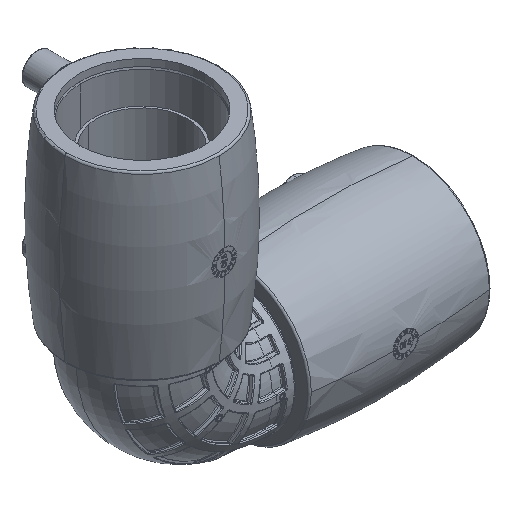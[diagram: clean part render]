
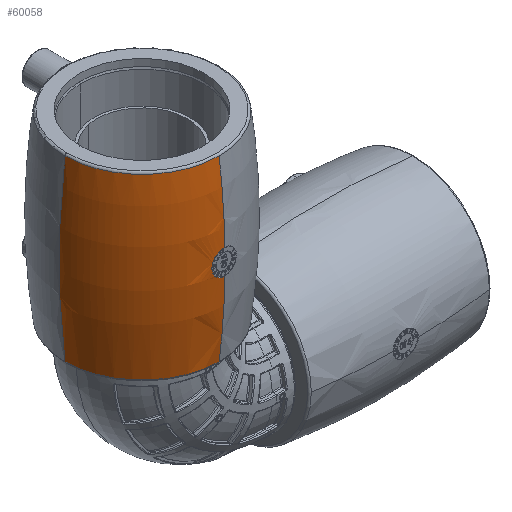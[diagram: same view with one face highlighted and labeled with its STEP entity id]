
A CAD part, isometric view. The second image highlights one B-rep face of the part: STEP entity #60058.
In plain terms, the highlighted toroidal (fillet/blend) face has major radius 307.5 mm and minor radius 350 mm.
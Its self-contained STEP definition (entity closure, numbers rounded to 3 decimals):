
#59374 = VERTEX_POINT ( 'NONE', #119438 ) ;
#59394 = VERTEX_POINT ( 'NONE', #119437 ) ;
#59498 = VERTEX_POINT ( 'NONE', #119612 ) ;
#59526 = EDGE_CURVE ( 'NONE', #59374, #59394, #119640, .T. ) ;
#59547 = EDGE_CURVE ( 'NONE', #59606, #59675, #119685, .T. ) ;
#59582 = VERTEX_POINT ( 'NONE', #119708 ) ;
#59606 = VERTEX_POINT ( 'NONE', #119737 ) ;
#59626 = EDGE_CURVE ( 'NONE', #59582, #59498, #119754, .T. ) ;
#59675 = VERTEX_POINT ( 'NONE', #119806 ) ;
#59895 = ORIENTED_EDGE ( 'NONE', *, *, #60059, .T. ) ;
#59942 = VERTEX_POINT ( 'NONE', #120184 ) ;
#59949 = ORIENTED_EDGE ( 'NONE', *, *, #60069, .F. ) ;
#59970 = ORIENTED_EDGE ( 'NONE', *, *, #59526, .F. ) ;
#59971 = EDGE_CURVE ( 'NONE', #59394, #60061, #120269, .T. ) ;
#59973 = EDGE_CURVE ( 'NONE', #59976, #59374, #120263, .T. ) ;
#59976 = VERTEX_POINT ( 'NONE', #120262 ) ;
#59978 = EDGE_CURVE ( 'NONE', #59606, #59942, #120264, .T. ) ;
#59982 = ORIENTED_EDGE ( 'NONE', *, *, #59973, .F. ) ;
#59988 = ORIENTED_EDGE ( 'NONE', *, *, #59547, .T. ) ;
#59994 = EDGE_LOOP ( 'NONE', ( #59988, #59895, #60062, #60065, #60063, #59970, #59982, #59949, #60056 ) ) ;
#60056 = ORIENTED_EDGE ( 'NONE', *, *, #59978, .F. ) ;
#60058 = ADVANCED_FACE ( 'NONE', ( #120394 ), #120392, .T. ) ;
#60059 = EDGE_CURVE ( 'NONE', #59675, #59582, #120438, .T. ) ;
#60060 = EDGE_CURVE ( 'NONE', #60061, #59498, #120400, .T. ) ;
#60061 = VERTEX_POINT ( 'NONE', #120429 ) ;
#60062 = ORIENTED_EDGE ( 'NONE', *, *, #59626, .T. ) ;
#60063 = ORIENTED_EDGE ( 'NONE', *, *, #59971, .F. ) ;
#60065 = ORIENTED_EDGE ( 'NONE', *, *, #60060, .F. ) ;
#60069 = EDGE_CURVE ( 'NONE', #59942, #59976, #120428, .T. ) ;
#119437 = CARTESIAN_POINT ( 'NONE',  ( -39.383, -43.52, 60.813 ) ) ;
#119438 = CARTESIAN_POINT ( 'NONE',  ( -39.501, -43.504, 62.023 ) ) ;
#119505 = CARTESIAN_POINT ( 'NONE',  ( -38.432, -43.632, 65.538 ) ) ;
#119516 = CARTESIAN_POINT ( 'NONE',  ( -38.219, -43.655, 65.833 ) ) ;
#119612 = CARTESIAN_POINT ( 'NONE',  ( -33.251, -40.979, 16.393 ) ) ;
#119635 = CARTESIAN_POINT ( 'NONE',  ( -39.383, -43.52, 60.813 ) ) ;
#119636 = CARTESIAN_POINT ( 'NONE',  ( -39.462, -43.509, 61.216 ) ) ;
#119637 = CARTESIAN_POINT ( 'NONE',  ( -39.501, -43.504, 61.62 ) ) ;
#119638 = CARTESIAN_POINT ( 'NONE',  ( -39.501, -43.504, 62.023 ) ) ;
#119640 = B_SPLINE_CURVE_WITH_KNOTS ( 'NONE', 3,
 ( #119638, #119637, #119636, #119635 ),
 .UNSPECIFIED., .F., .F.,
 ( 4, 4 ),
 ( 0.001, 0.002 ),
 .UNSPECIFIED. ) ;
#119673 = DIRECTION ( 'NONE',  ( -1., 0., 0. ) ) ;
#119674 = DIRECTION ( 'NONE',  ( 0., 0., -1. ) ) ;
#119675 = CARTESIAN_POINT ( 'NONE',  ( -33.251, -1.466, 107.654 ) ) ;
#119676 = AXIS2_PLACEMENT_3D ( 'NONE', #119675, #119674, #119673 ) ;
#119685 = CIRCLE ( 'NONE', #119676, 39.513 ) ;
#119708 = CARTESIAN_POINT ( 'NONE',  ( -72.764, -1.466, 16.393 ) ) ;
#119737 = CARTESIAN_POINT ( 'NONE',  ( -33.251, -40.979, 107.654 ) ) ;
#119751 = DIRECTION ( 'NONE',  ( 1., 0., 0. ) ) ;
#119752 = DIRECTION ( 'NONE',  ( 0., 0., 1. ) ) ;
#119753 = CARTESIAN_POINT ( 'NONE',  ( -33.251, -1.466, 16.393 ) ) ;
#119754 = CIRCLE ( 'NONE', #119778, 39.513 ) ;
#119778 = AXIS2_PLACEMENT_3D ( 'NONE', #119753, #119752, #119751 ) ;
#119806 = CARTESIAN_POINT ( 'NONE',  ( -72.764, -1.466, 107.654 ) ) ;
#120178 = CARTESIAN_POINT ( 'NONE',  ( -39.313, -43.529, 63.585 ) ) ;
#120180 = CARTESIAN_POINT ( 'NONE',  ( -38.955, -43.573, 64.604 ) ) ;
#120184 = CARTESIAN_POINT ( 'NONE',  ( -33.251, -43.911, 68.273 ) ) ;
#120188 = CARTESIAN_POINT ( 'NONE',  ( -38.798, -43.591, 64.925 ) ) ;
#120190 = CARTESIAN_POINT ( 'NONE',  ( -39.212, -43.541, 63.934 ) ) ;
#120194 = CARTESIAN_POINT ( 'NONE',  ( -39.383, -43.52, 63.234 ) ) ;
#120257 = AXIS2_PLACEMENT_3D ( 'NONE', #120271, #120303, #120302 ) ;
#120259 = CARTESIAN_POINT ( 'NONE',  ( -38.432, -43.632, 58.51 ) ) ;
#120260 = CARTESIAN_POINT ( 'NONE',  ( -38.798, -43.591, 59.122 ) ) ;
#120261 = CARTESIAN_POINT ( 'NONE',  ( -38.955, -43.573, 59.444 ) ) ;
#120262 = CARTESIAN_POINT ( 'NONE',  ( -39.383, -43.52, 63.234 ) ) ;
#120263 = B_SPLINE_CURVE_WITH_KNOTS ( 'NONE', 3,
 ( #120308, #120307, #120306, #120305 ),
 .UNSPECIFIED., .F., .F.,
 ( 4, 4 ),
 ( 0., 0.001 ),
 .UNSPECIFIED. ) ;
#120264 = CIRCLE ( 'NONE', #120257, 350. ) ;
#120265 = CARTESIAN_POINT ( 'NONE',  ( -39.215, -43.541, 60.119 ) ) ;
#120266 = CARTESIAN_POINT ( 'NONE',  ( -39.313, -43.529, 60.463 ) ) ;
#120267 = CARTESIAN_POINT ( 'NONE',  ( -39.383, -43.52, 60.813 ) ) ;
#120269 = B_SPLINE_CURVE_WITH_KNOTS ( 'NONE', 3,
 ( #120267, #120266, #120265, #120261, #120260, #120259, #120322, #120321, #120320, #120319, #120318, #120317, #120316, #120315, #120313, #120312, #120311, #120310 ),
 .UNSPECIFIED., .F., .F.,
 ( 4, 2, 2, 2, 2, 2, 2, 2, 4 ),
 ( 0.011, 0.013, 0.014, 0.015, 0.016, 0.017, 0.018, 0.019, 0.02 ),
 .UNSPECIFIED. ) ;
#120271 = CARTESIAN_POINT ( 'NONE',  ( -33.251, 306.034, 62.023 ) ) ;
#120302 = DIRECTION ( 'NONE',  ( 0., 0., -1. ) ) ;
#120303 = DIRECTION ( 'NONE',  ( 1., 0., 0. ) ) ;
#120305 = CARTESIAN_POINT ( 'NONE',  ( -39.501, -43.504, 62.023 ) ) ;
#120306 = CARTESIAN_POINT ( 'NONE',  ( -39.501, -43.504, 62.427 ) ) ;
#120307 = CARTESIAN_POINT ( 'NONE',  ( -39.462, -43.509, 62.831 ) ) ;
#120308 = CARTESIAN_POINT ( 'NONE',  ( -39.383, -43.52, 63.234 ) ) ;
#120310 = CARTESIAN_POINT ( 'NONE',  ( -33.251, -43.911, 55.773 ) ) ;
#120311 = CARTESIAN_POINT ( 'NONE',  ( -33.61, -43.911, 55.773 ) ) ;
#120312 = CARTESIAN_POINT ( 'NONE',  ( -33.967, -43.907, 55.804 ) ) ;
#120313 = CARTESIAN_POINT ( 'NONE',  ( -34.679, -43.891, 55.928 ) ) ;
#120315 = CARTESIAN_POINT ( 'NONE',  ( -35.027, -43.879, 56.021 ) ) ;
#120316 = CARTESIAN_POINT ( 'NONE',  ( -35.699, -43.85, 56.262 ) ) ;
#120317 = CARTESIAN_POINT ( 'NONE',  ( -36.023, -43.832, 56.41 ) ) ;
#120318 = CARTESIAN_POINT ( 'NONE',  ( -36.65, -43.792, 56.766 ) ) ;
#120319 = CARTESIAN_POINT ( 'NONE',  ( -36.946, -43.77, 56.97 ) ) ;
#120320 = CARTESIAN_POINT ( 'NONE',  ( -37.497, -43.724, 57.423 ) ) ;
#120321 = CARTESIAN_POINT ( 'NONE',  ( -37.752, -43.701, 57.672 ) ) ;
#120322 = CARTESIAN_POINT ( 'NONE',  ( -38.223, -43.655, 58.219 ) ) ;
#120385 = DIRECTION ( 'NONE',  ( -1., 0., 0. ) ) ;
#120386 = DIRECTION ( 'NONE',  ( 0., 0., -1. ) ) ;
#120387 = CARTESIAN_POINT ( 'NONE',  ( -33.251, -1.466, 62.023 ) ) ;
#120388 = AXIS2_PLACEMENT_3D ( 'NONE', #120387, #120386, #120385 ) ;
#120392 = TOROIDAL_SURFACE ( 'NONE', #120388, -307.5, 350. ) ;
#120394 = FACE_OUTER_BOUND ( 'NONE', #59994, .T. ) ;
#120400 = CIRCLE ( 'NONE', #120433, 350. ) ;
#120401 = AXIS2_PLACEMENT_3D ( 'NONE', #120437, #120435, #120434 ) ;
#120412 = CARTESIAN_POINT ( 'NONE',  ( -37.751, -43.701, 66.375 ) ) ;
#120413 = CARTESIAN_POINT ( 'NONE',  ( -37.496, -43.724, 66.624 ) ) ;
#120414 = CARTESIAN_POINT ( 'NONE',  ( -36.945, -43.77, 67.078 ) ) ;
#120415 = CARTESIAN_POINT ( 'NONE',  ( -36.645, -43.792, 67.284 ) ) ;
#120416 = CARTESIAN_POINT ( 'NONE',  ( -36.022, -43.832, 67.637 ) ) ;
#120417 = CARTESIAN_POINT ( 'NONE',  ( -35.697, -43.85, 67.786 ) ) ;
#120418 = CARTESIAN_POINT ( 'NONE',  ( -35.024, -43.879, 68.027 ) ) ;
#120419 = CARTESIAN_POINT ( 'NONE',  ( -34.671, -43.891, 68.121 ) ) ;
#120424 = CARTESIAN_POINT ( 'NONE',  ( -33.965, -43.907, 68.243 ) ) ;
#120425 = CARTESIAN_POINT ( 'NONE',  ( -33.609, -43.911, 68.273 ) ) ;
#120426 = CARTESIAN_POINT ( 'NONE',  ( -33.251, -43.911, 68.273 ) ) ;
#120428 = B_SPLINE_CURVE_WITH_KNOTS ( 'NONE', 3,
 ( #120426, #120425, #120424, #120419, #120418, #120417, #120416, #120415, #120414, #120413, #120412, #119516, #119505, #120188, #120180, #120190, #120178, #120194 ),
 .UNSPECIFIED., .F., .F.,
 ( 4, 2, 2, 2, 2, 2, 2, 2, 4 ),
 ( 0.001, 0.002, 0.003, 0.004, 0.005, 0.006, 0.007, 0.008, 0.009 ),
 .UNSPECIFIED. ) ;
#120429 = CARTESIAN_POINT ( 'NONE',  ( -33.251, -43.911, 55.773 ) ) ;
#120430 = DIRECTION ( 'NONE',  ( 0., 0., -1. ) ) ;
#120431 = DIRECTION ( 'NONE',  ( 1., 0., 0. ) ) ;
#120432 = CARTESIAN_POINT ( 'NONE',  ( -33.251, 306.034, 62.023 ) ) ;
#120433 = AXIS2_PLACEMENT_3D ( 'NONE', #120432, #120431, #120430 ) ;
#120434 = DIRECTION ( 'NONE',  ( 0., 0., -1. ) ) ;
#120435 = DIRECTION ( 'NONE',  ( 0., -1., 0. ) ) ;
#120437 = CARTESIAN_POINT ( 'NONE',  ( 274.249, -1.466, 62.023 ) ) ;
#120438 = CIRCLE ( 'NONE', #120401, 350. ) ;
